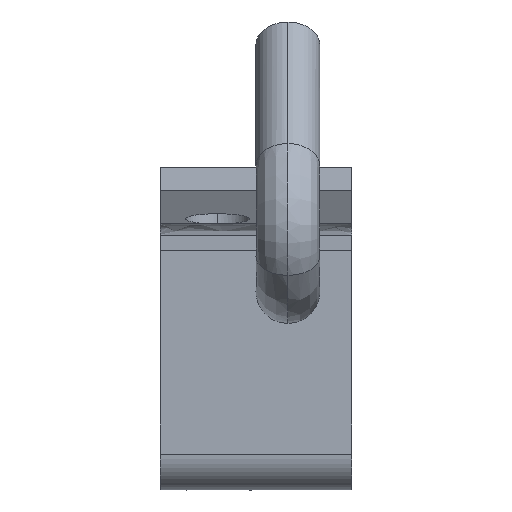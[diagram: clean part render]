
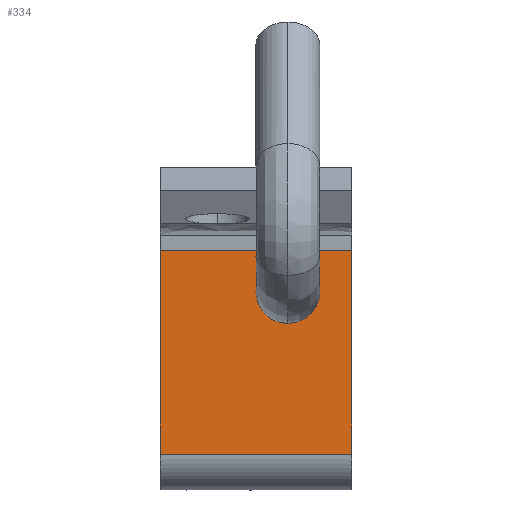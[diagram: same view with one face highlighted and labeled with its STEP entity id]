
A CAD part, left-side view. The second image highlights one B-rep face of the part: STEP entity #334.
In plain terms, the highlighted planar face has unit normal (-1, 0, 0).
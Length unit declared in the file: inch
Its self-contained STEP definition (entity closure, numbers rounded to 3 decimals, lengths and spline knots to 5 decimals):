
#304=EDGE_CURVE('',#767,#768,#769,.T.);
#308=EDGE_CURVE('',#773,#774,#775,.T.);
#334=ADVANCED_FACE('',(#818,#819),#820,.T.);
#428=EDGE_CURVE('',#937,#767,#963,.T.);
#524=EDGE_CURVE('',#937,#746,#1088,.T.);
#530=EDGE_CURVE('',#768,#746,#1095,.T.);
#582=EDGE_CURVE('',#774,#773,#1159,.T.);
#746=VERTEX_POINT('',#1477);
#767=VERTEX_POINT('',#1511);
#768=VERTEX_POINT('',#1512);
#769=LINE('',#1513,#1514);
#773=VERTEX_POINT('',#1521);
#774=VERTEX_POINT('',#1522);
#775=CIRCLE('',#1523,0.25);
#818=FACE_OUTER_BOUND('',#1589,.T.);
#819=FACE_BOUND('',#1590,.T.);
#820=PLANE('',#1591);
#937=VERTEX_POINT('',#1815);
#963=LINE('',#1850,#1851);
#1088=LINE('',#2052,#2053);
#1095=LINE('',#2063,#2064);
#1159=CIRCLE('',#2788,0.25);
#1477=CARTESIAN_POINT('',(5.03585,-0.5,-0.09806));
#1511=CARTESIAN_POINT('',(5.03585,1.0,-1.69182));
#1512=CARTESIAN_POINT('',(5.03585,-0.5,-1.69182));
#1513=CARTESIAN_POINT('',(5.03585,1.0,-1.69182));
#1514=VECTOR('',#3032,1.0);
#1521=CARTESIAN_POINT('',(5.03585,0.,-0.16842));
#1522=CARTESIAN_POINT('',(5.03585,0.,-0.66842));
#1523=AXIS2_PLACEMENT_3D('',#3034,#3035,#3036);
#1589=EDGE_LOOP('',(#3079,#3080,#3081,#3082));
#1590=EDGE_LOOP('',(#3083,#3084));
#1591=AXIS2_PLACEMENT_3D('',#3085,#3086,#3087);
#1815=CARTESIAN_POINT('',(5.03585,1.0,-0.09806));
#1850=CARTESIAN_POINT('',(5.03585,1.0,-0.09806));
#1851=VECTOR('',#3265,1.0);
#2052=CARTESIAN_POINT('',(5.03585,1.0,-0.09806));
#2053=VECTOR('',#3430,1.0);
#2063=CARTESIAN_POINT('',(5.03585,-0.5,-0.09806));
#2064=VECTOR('',#3440,1.0);
#2788=AXIS2_PLACEMENT_3D('',#3539,#3540,#3541);
#3032=DIRECTION('',(0.0,-1.0,0.0));
#3034=CARTESIAN_POINT('',(5.03585,0.0,-0.41842));
#3035=DIRECTION('',(-1.0,0.0,0.0));
#3036=DIRECTION('',(0.0,0.0,1.0));
#3079=ORIENTED_EDGE('',*,*,#530,.T.);
#3080=ORIENTED_EDGE('',*,*,#524,.F.);
#3081=ORIENTED_EDGE('',*,*,#428,.T.);
#3082=ORIENTED_EDGE('',*,*,#304,.T.);
#3083=ORIENTED_EDGE('',*,*,#582,.F.);
#3084=ORIENTED_EDGE('',*,*,#308,.F.);
#3085=CARTESIAN_POINT('',(5.03585,1.0,-0.89494));
#3086=DIRECTION('',(-1.0,0.0,0.0));
#3087=DIRECTION('',(0.0,0.0,-1.0));
#3265=DIRECTION('',(0.0,0.0,-1.0));
#3430=DIRECTION('',(0.0,-1.0,0.0));
#3440=DIRECTION('',(0.0,0.0,1.0));
#3539=CARTESIAN_POINT('',(5.03585,0.0,-0.41842));
#3540=DIRECTION('',(-1.0,0.0,0.0));
#3541=DIRECTION('',(0.0,0.0,1.0));
